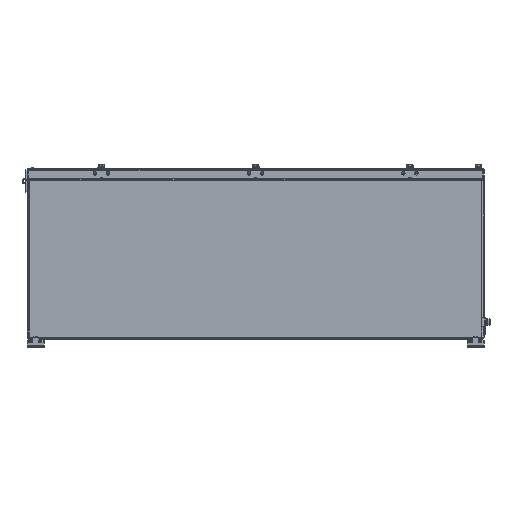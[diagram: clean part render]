
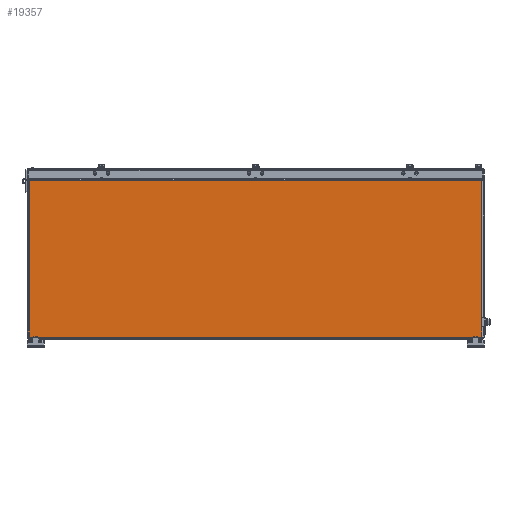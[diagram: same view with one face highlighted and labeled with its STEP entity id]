
A CAD part, front view. The second image highlights one B-rep face of the part: STEP entity #19357.
In plain terms, the highlighted planar face has unit normal (0, -1, 0).
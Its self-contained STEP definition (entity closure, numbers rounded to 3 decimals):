
#636 = LINE ( 'NONE', #80641, #51518 ) ;
#1081 = VERTEX_POINT ( 'NONE', #16244 ) ;
#1295 = DIRECTION ( 'NONE',  ( 1., 0., 0. ) ) ;
#2013 = VERTEX_POINT ( 'NONE', #41099 ) ;
#2420 = LINE ( 'NONE', #71682, #37832 ) ;
#2734 = DIRECTION ( 'NONE',  ( 0., 0., 1. ) ) ;
#4936 = DIRECTION ( 'NONE',  ( 0., 0., 1. ) ) ;
#7409 = CARTESIAN_POINT ( 'NONE',  ( 381.55, -500., 2.7 ) ) ;
#9620 = CARTESIAN_POINT ( 'NONE',  ( -389.198, -500., 4. ) ) ;
#10352 = CARTESIAN_POINT ( 'NONE',  ( -396., -500., 281.5 ) ) ;
#10661 = CIRCLE ( 'NONE', #36075, 1.5 ) ;
#11001 = EDGE_CURVE ( 'NONE', #47420, #2013, #34854, .T. ) ;
#12968 = DIRECTION ( 'NONE',  ( -1., 0., 0. ) ) ;
#13730 = LINE ( 'NONE', #22896, #48998 ) ;
#13984 = CARTESIAN_POINT ( 'NONE',  ( -381.55, -500., 4.2 ) ) ;
#14008 = CARTESIAN_POINT ( 'NONE',  ( -396., -500., 4. ) ) ;
#14124 = DIRECTION ( 'NONE',  ( 0., 0., 1. ) ) ;
#14483 = ORIENTED_EDGE ( 'NONE', *, *, #75314, .T. ) ;
#14530 = EDGE_LOOP ( 'NONE', ( #72353, #53466, #38076, #53255, #81340, #30212, #23464, #60404, #83576, #49730, #32927, #14483 ) ) ;
#15729 = FACE_OUTER_BOUND ( 'NONE', #14530, .T. ) ;
#16244 = CARTESIAN_POINT ( 'NONE',  ( -388.45, -500., 4.2 ) ) ;
#16424 = DIRECTION ( 'NONE',  ( 1., 0., 0. ) ) ;
#17212 = VECTOR ( 'NONE', #18819, 1000. ) ;
#18686 = VERTEX_POINT ( 'NONE', #13984 ) ;
#18819 = DIRECTION ( 'NONE',  ( -1., 0., 0. ) ) ;
#19357 = ADVANCED_FACE ( 'NONE', ( #15729 ), #62204, .F. ) ;
#19950 = EDGE_CURVE ( 'NONE', #51909, #78854, #36381, .T. ) ;
#20489 = DIRECTION ( 'NONE',  ( 0., 1., 0. ) ) ;
#21224 = EDGE_CURVE ( 'NONE', #2013, #80398, #42331, .T. ) ;
#22252 = DIRECTION ( 'NONE',  ( 1., 0., 0. ) ) ;
#22358 = CARTESIAN_POINT ( 'NONE',  ( 400., -500., 281.5 ) ) ;
#22896 = CARTESIAN_POINT ( 'NONE',  ( 396., -500., 281.5 ) ) ;
#23464 = ORIENTED_EDGE ( 'NONE', *, *, #61540, .T. ) ;
#24036 = CIRCLE ( 'NONE', #61556, 1.5 ) ;
#26201 = CARTESIAN_POINT ( 'NONE',  ( 389.198, -500., 4. ) ) ;
#27067 = EDGE_CURVE ( 'NONE', #47420, #51909, #65072, .T. ) ;
#28704 = AXIS2_PLACEMENT_3D ( 'NONE', #22358, #35970, #82124 ) ;
#30212 = ORIENTED_EDGE ( 'NONE', *, *, #49715, .T. ) ;
#31308 = LINE ( 'NONE', #10352, #66413 ) ;
#32679 = LINE ( 'NONE', #65392, #83262 ) ;
#32927 = ORIENTED_EDGE ( 'NONE', *, *, #45752, .T. ) ;
#34735 = VERTEX_POINT ( 'NONE', #83005 ) ;
#34854 = LINE ( 'NONE', #82281, #17212 ) ;
#34924 = CARTESIAN_POINT ( 'NONE',  ( 396., -500., 277.5 ) ) ;
#35970 = DIRECTION ( 'NONE',  ( 0., 1., 0. ) ) ;
#36075 = AXIS2_PLACEMENT_3D ( 'NONE', #75775, #36246, #82386 ) ;
#36246 = DIRECTION ( 'NONE',  ( 0., 1., 0. ) ) ;
#36381 = LINE ( 'NONE', #75689, #51804 ) ;
#37832 = VECTOR ( 'NONE', #84944, 1000. ) ;
#38076 = ORIENTED_EDGE ( 'NONE', *, *, #27067, .T. ) ;
#38334 = CARTESIAN_POINT ( 'NONE',  ( -396., -500., 277.5 ) ) ;
#41099 = CARTESIAN_POINT ( 'NONE',  ( 381.55, -500., 4.2 ) ) ;
#42067 = VECTOR ( 'NONE', #22252, 1000. ) ;
#42331 = CIRCLE ( 'NONE', #83579, 1.5 ) ;
#44727 = DIRECTION ( 'NONE',  ( 0., 1., 0. ) ) ;
#45752 = EDGE_CURVE ( 'NONE', #18686, #34735, #24036, .T. ) ;
#47420 = VERTEX_POINT ( 'NONE', #62259 ) ;
#47909 = EDGE_CURVE ( 'NONE', #81344, #85661, #636, .T. ) ;
#48998 = VECTOR ( 'NONE', #2734, 1000. ) ;
#49537 = EDGE_CURVE ( 'NONE', #18686, #1081, #32679, .T. ) ;
#49715 = EDGE_CURVE ( 'NONE', #55304, #76227, #2420, .T. ) ;
#49730 = ORIENTED_EDGE ( 'NONE', *, *, #49537, .F. ) ;
#51518 = VECTOR ( 'NONE', #1295, 1000. ) ;
#51804 = VECTOR ( 'NONE', #16424, 1000. ) ;
#51909 = VERTEX_POINT ( 'NONE', #26201 ) ;
#53255 = ORIENTED_EDGE ( 'NONE', *, *, #19950, .T. ) ;
#53466 = ORIENTED_EDGE ( 'NONE', *, *, #11001, .F. ) ;
#53724 = DIRECTION ( 'NONE',  ( 0., -1., 0. ) ) ;
#55304 = VERTEX_POINT ( 'NONE', #34924 ) ;
#57507 = LINE ( 'NONE', #61782, #42067 ) ;
#59734 = EDGE_CURVE ( 'NONE', #85661, #1081, #10661, .T. ) ;
#59916 = EDGE_CURVE ( 'NONE', #78854, #55304, #13730, .T. ) ;
#60026 = CARTESIAN_POINT ( 'NONE',  ( 388.45, -500., 2.7 ) ) ;
#60404 = ORIENTED_EDGE ( 'NONE', *, *, #47909, .T. ) ;
#61540 = EDGE_CURVE ( 'NONE', #76227, #81344, #31308, .T. ) ;
#61556 = AXIS2_PLACEMENT_3D ( 'NONE', #84290, #44727, #4936 ) ;
#61782 = CARTESIAN_POINT ( 'NONE',  ( 400., -500., 4. ) ) ;
#62204 = PLANE ( 'NONE',  #28704 ) ;
#62259 = CARTESIAN_POINT ( 'NONE',  ( 388.45, -500., 4.2 ) ) ;
#65072 = CIRCLE ( 'NONE', #71834, 1.5 ) ;
#65392 = CARTESIAN_POINT ( 'NONE',  ( -389.95, -500., 4.2 ) ) ;
#66413 = VECTOR ( 'NONE', #76605, 1000. ) ;
#66722 = DIRECTION ( 'NONE',  ( 0., 0., 1. ) ) ;
#71682 = CARTESIAN_POINT ( 'NONE',  ( -400., -500., 277.5 ) ) ;
#71834 = AXIS2_PLACEMENT_3D ( 'NONE', #60026, #20489, #66722 ) ;
#72353 = ORIENTED_EDGE ( 'NONE', *, *, #21224, .F. ) ;
#72967 = CARTESIAN_POINT ( 'NONE',  ( 396., -500., 4. ) ) ;
#75314 = EDGE_CURVE ( 'NONE', #34735, #80398, #57507, .T. ) ;
#75689 = CARTESIAN_POINT ( 'NONE',  ( 400., -500., 4. ) ) ;
#75775 = CARTESIAN_POINT ( 'NONE',  ( -388.45, -500., 2.7 ) ) ;
#76227 = VERTEX_POINT ( 'NONE', #38334 ) ;
#76605 = DIRECTION ( 'NONE',  ( 0., 0., -1. ) ) ;
#78854 = VERTEX_POINT ( 'NONE', #72967 ) ;
#80398 = VERTEX_POINT ( 'NONE', #82417 ) ;
#80641 = CARTESIAN_POINT ( 'NONE',  ( 400., -500., 4. ) ) ;
#81340 = ORIENTED_EDGE ( 'NONE', *, *, #59916, .T. ) ;
#81344 = VERTEX_POINT ( 'NONE', #14008 ) ;
#82124 = DIRECTION ( 'NONE',  ( 0., 0., 1. ) ) ;
#82281 = CARTESIAN_POINT ( 'NONE',  ( 380.05, -500., 4.2 ) ) ;
#82386 = DIRECTION ( 'NONE',  ( 0., 0., 1. ) ) ;
#82417 = CARTESIAN_POINT ( 'NONE',  ( 380.802, -500., 4. ) ) ;
#83005 = CARTESIAN_POINT ( 'NONE',  ( -380.802, -500., 4. ) ) ;
#83262 = VECTOR ( 'NONE', #12968, 1000. ) ;
#83576 = ORIENTED_EDGE ( 'NONE', *, *, #59734, .T. ) ;
#83579 = AXIS2_PLACEMENT_3D ( 'NONE', #7409, #53724, #14124 ) ;
#84290 = CARTESIAN_POINT ( 'NONE',  ( -381.55, -500., 2.7 ) ) ;
#84944 = DIRECTION ( 'NONE',  ( -1., 0., 0. ) ) ;
#85661 = VERTEX_POINT ( 'NONE', #9620 ) ;
